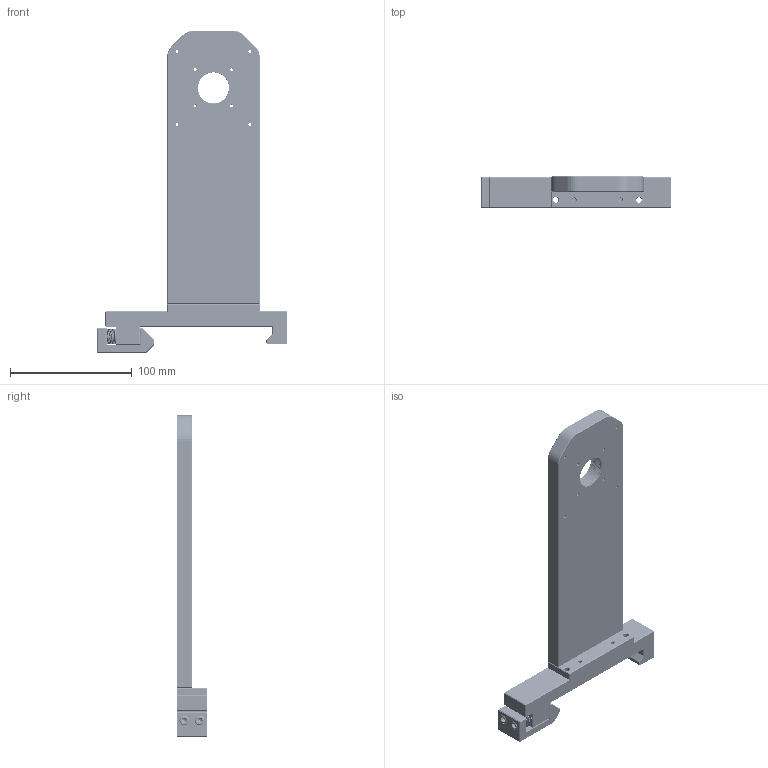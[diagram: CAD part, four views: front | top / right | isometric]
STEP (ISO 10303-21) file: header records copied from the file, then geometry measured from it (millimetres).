
FILE_DESCRIPTION((''),'2;1');
FILE_NAME('OPH95-FAM1_ASM','2024-04-09T15:59:04',('R&D'),(''),'CREO PARAMETRIC BY PTC INC, 2021063','CREO PARAMETRIC BY PTC INC, 2021063','');
FILE_SCHEMA(('CONFIG_CONTROL_DESIGN'));
Products named in the file (13): OPH95-FAM1-A0; OPH95-FAM1-A1; OPH95-FAM1-A2; OPH95-FAM1-A3; OPH95-FAM1-A4; OPH95-FAM1-A5; OPH95-FAM1-A6; OPH95-FAM1-A7; OPH95-FAM1-A8; OPH95-FAM1-A9; OPH95-FAM1-B1; OPH95-FAM1-B0_ASM; OPH95-FAM1_ASM
Assembly tree (12 placements, depth 3):
  OPH95-FAM1_ASM
    OPH95-FAM1-B0_ASM
      OPH95-FAM1-A0
      OPH95-FAM1-A1
      OPH95-FAM1-A2
      OPH95-FAM1-A3
      OPH95-FAM1-A4
      OPH95-FAM1-A5
      OPH95-FAM1-A6
      OPH95-FAM1-A7
      OPH95-FAM1-A8
      OPH95-FAM1-A9
      OPH95-FAM1-B1
Bounding box: 157.11 x 25.4 x 265.3 mm (x, y, z)
Volume: 290131.7 mm3; surface area: 72329.3 mm2
Topology: 11 solids, 11 shells, 1475 faces, 4083 edges, 2586 vertices
Faces by surface type: cylinder 970, bspline 219, plane 172, cone 106, torus 8
Entity records: 137727 total; most frequent: CARTESIAN_POINT 104628, ORIENTED_EDGE 8134, DIRECTION 4781, EDGE_CURVE 4067, VERTEX_POINT 2586, B_SPLINE_CURVE_WITH_KNOTS 2202, AXIS2_PLACEMENT_3D 1624, EDGE_LOOP 1557
